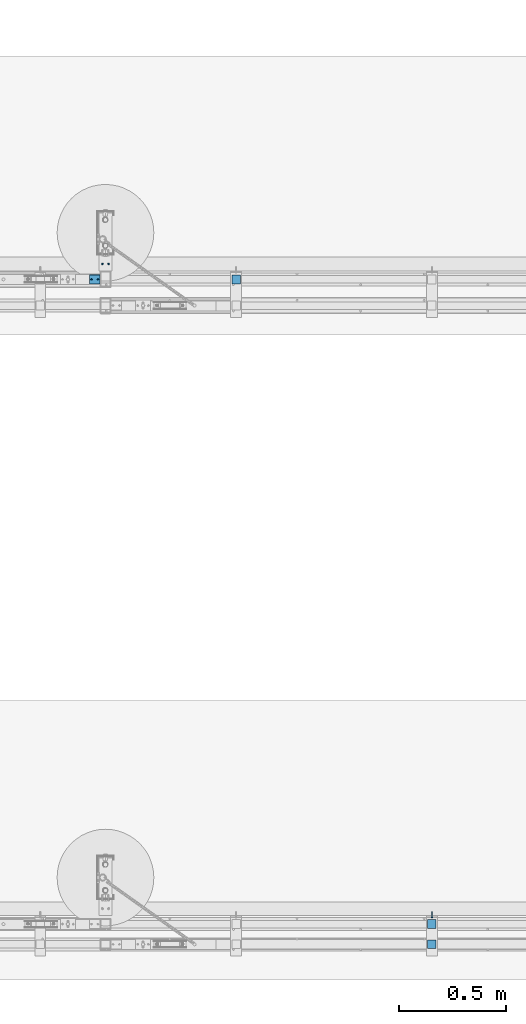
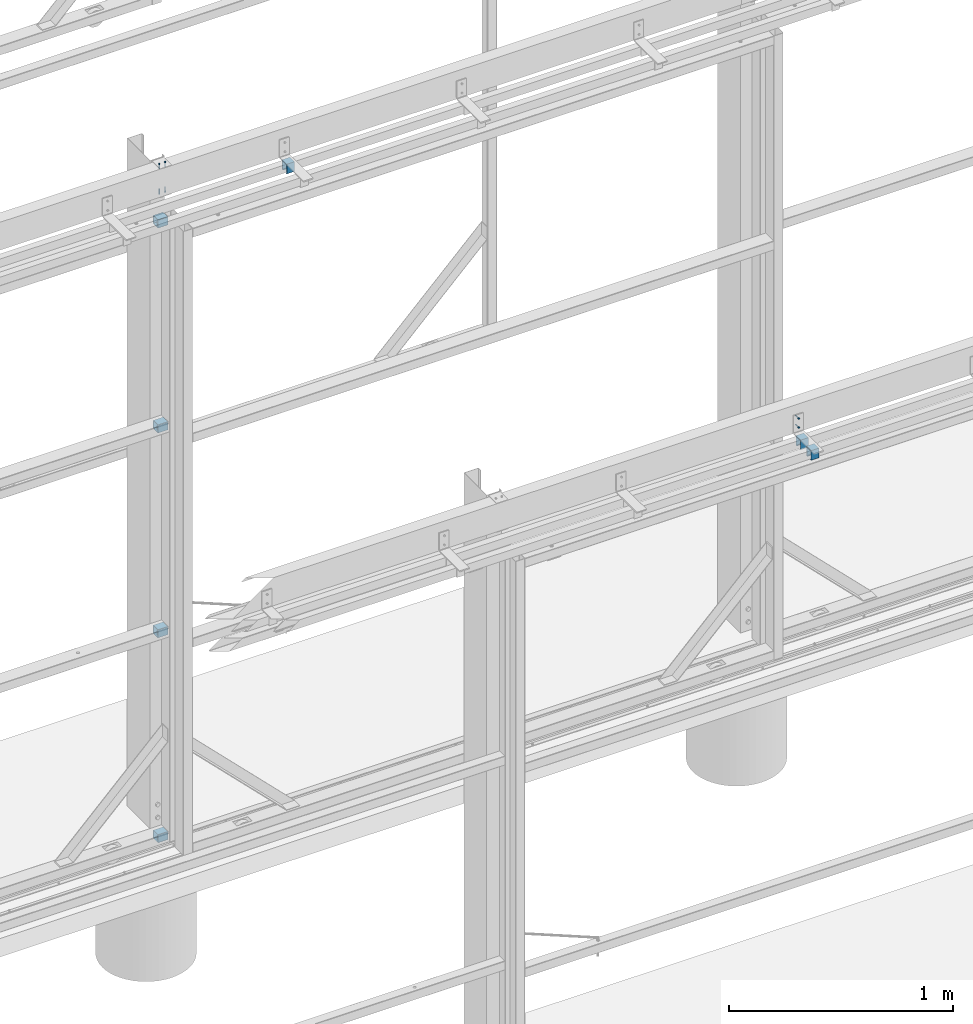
# One storey, part 42 of 91: 7 discrete accessories, 7 mechanical fasteners, 4 elements without a shape of their own.
"""IFC2X3 building model written with IfcOpenShell, lengths in millimetres."""

from ifc_helpers import new_model, si_unit, frame, origin_with_axes, origin_2d_with_axis, place, context, subcontext, project, spatial, polyline, hollow_rectangle, circle, c_section, outline, extrude, source, transform, mapped, material, type_object, element, aggregate, save


model = new_model("IFC2X3")

# Units and contexts
model_context = context("Model", 3, precision=1e-05, world=origin_with_axes())
body_context = subcontext(model_context, "Body", "Model", "MODEL_VIEW")
ifc_project = project(units=[si_unit("LENGTHUNIT", "METRE", prefix="MILLI"), si_unit("AREAUNIT", "SQUARE_METRE"), si_unit("VOLUMEUNIT", "CUBIC_METRE"), si_unit("MASSUNIT", "GRAM", prefix="KILO"), si_unit("TIMEUNIT", "SECOND"), si_unit("PLANEANGLEUNIT", "RADIAN"), si_unit("SOLIDANGLEUNIT", "STERADIAN"), si_unit("THERMODYNAMICTEMPERATUREUNIT", "DEGREE_CELSIUS"), si_unit("LUMINOUSINTENSITYUNIT", "LUMEN")], contexts=[model_context])

# Site, building, storey
site_placement = place(None, origin_with_axes())
site = spatial("IfcSite", under=ifc_project, at=site_placement, Name="Undefined", CompositionType="ELEMENT")
building_placement = place(site_placement, origin_with_axes())
building = spatial("IfcBuilding", under=site, at=building_placement, Name="Undefined", CompositionType="ELEMENT")
storey_placement = place(building_placement, origin_with_axes())
storey = spatial("IfcBuildingStorey", under=building, at=storey_placement, Name="Undefined", CompositionType="ELEMENT", Elevation=0.0)

# Assembly, mechanical fastener
assembly_1_placement = place(storey_placement, origin_with_axes())
assembly_1 = element("IfcElementAssembly", 1, at=assembly_1_placement, inside=storey, Name="DOOR BRACKET", AssemblyPlace="NOTDEFINED", PredefinedType="RIGID_FRAME")
ifc_material_1 = material(Name="TEK_11TPIM")
discrete_accessory_type_1 = type_object("IfcDiscreteAccessoryType", Name="Bolt assembly")
shared_shape_1 = source(origin_with_axes(), body_context, "Body", "SweptSolid", [
    extrude(circle(Radius=3.0, at=origin_2d_with_axis()), frame((0.0, -6.0, 0.0), z_axis=(0.0, 1.0, 0.0), x_axis=(1.0, 0.0, 0.0)), (0.0, 0.0, 1.0), 6.1),
    extrude(outline(polyline([(4.61880215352, 0.0), (2.30940107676, 4.00000000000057), (-2.30940107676, 4.00000000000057), (-4.61880215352, 0.0), (-2.30940107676, -4.00000000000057), (2.30940107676, -4.00000000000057), (4.61880215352, 0.0)])), frame((0.0, -11.1000000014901, 0.0), z_axis=(0.0, 1.0, 0.0), x_axis=(1.0, 0.0, 0.0)), (0.0, 0.0, 1.0), 5.0),
    extrude(circle(Radius=3.0, at=origin_2d_with_axis()), frame((0.0, -6.10000000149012, 0.0), z_axis=(0.0, 1.0, 0.0), x_axis=(1.0, 0.0, 0.0)), (0.0, 0.0, 1.0), 25.0),
    extrude(circle(Radius=3.0, at=origin_2d_with_axis()), frame((0.0, -6.10000000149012, 0.0), z_axis=(0.0, 1.0, 0.0), x_axis=(1.0, 0.0, 0.0)), (0.0, 0.0, 1.0), 0.1),
    extrude(circle(Radius=3.0, at=origin_2d_with_axis()), frame((0.0, 0.0, 0.0), z_axis=(0.0, 1.0, 0.0), x_axis=(1.0, 0.0, 0.0)), (0.0, 0.0, 1.0), 0.1),
    extrude(outline(polyline([(3.46410161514, 0.0), (1.73205080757, 3.00000000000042), (-1.73205080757, 3.00000000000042), (-3.46410161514, 0.0), (-1.73205080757, -3.00000000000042), (1.73205080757, -3.00000000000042), (3.46410161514, 0.0)])), frame((0.0, 0.1, 0.0), z_axis=(0.0, 1.0, 0.0), x_axis=(1.0, 0.0, 0.0)), (0.0, 0.0, 1.0), 0.1),
])
mechanical_fastener_1_placement = place(assembly_1_placement, frame((-112239.59, 84752.15, 3524.0), z_axis=(1.0, 0.0, 0.0), x_axis=(0.0, 0.0, -1.0)))
mechanical_fastener_1 = element("IfcMechanicalFastener", 2, at=mechanical_fastener_1_placement, type_object=discrete_accessory_type_1, material=ifc_material_1, Name="Bolt assembly", NominalDiameter=6.0, NominalLength=25.0, context=body_context, shape_type="MappedRepresentation", body=[
    mapped(shared_shape_1, transform((0.0, 0.0, 0.0))),
    mapped(shared_shape_1, transform((50.0, 0.0, 0.0))),
])

# Assembly, mechanical fasteners
assembly_2_placement = place(storey_placement, origin_with_axes())
assembly_2 = element("IfcElementAssembly", 3, at=assembly_2_placement, inside=storey, Name="SLIDING DOOR", AssemblyPlace="NOTDEFINED", PredefinedType="RIGID_FRAME")
shared_shape_2 = source(origin_with_axes(), body_context, "Body", "SweptSolid", [
    extrude(circle(Radius=3.0, at=origin_2d_with_axis()), frame((0.0, 0.103333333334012, 0.0), z_axis=(0.0, 1.0, 0.0), x_axis=(1.0, 0.0, 0.0)), (0.0, 0.0, 1.0), 2.0),
    extrude(circle(Radius=3.0, at=origin_2d_with_axis()), frame((0.0, 2.4, 0.0), z_axis=(0.0, 1.0, 0.0), x_axis=(1.0, 0.0, 0.0)), (0.0, 0.0, 1.0), 1.7),
    extrude(outline(polyline([(4.61880215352, 0.0), (2.30940107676, 4.00000000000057), (-2.30940107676, 4.00000000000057), (-4.61880215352, 0.0), (-2.30940107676, -4.00000000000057), (2.30940107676, -4.00000000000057), (4.61880215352, 0.0)])), frame((0.0, -4.99666666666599, 0.0), z_axis=(0.0, 1.0, 0.0), x_axis=(1.0, 0.0, 0.0)), (0.0, 0.0, 1.0), 5.0),
    extrude(circle(Radius=3.0, at=origin_2d_with_axis()), frame((0.0, 0.0033333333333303, 0.0), z_axis=(0.0, 1.0, 0.0), x_axis=(1.0, 0.0, 0.0)), (0.0, 0.0, 1.0), 25.0),
    extrude(circle(Radius=3.0, at=origin_2d_with_axis()), frame((0.0, 4.10000002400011, 0.0), z_axis=(0.0, 1.0, 0.0), x_axis=(1.0, 0.0, 0.0)), (0.0, 0.0, 1.0), 0.1),
    extrude(outline(polyline([(3.46410161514, 0.0), (1.73205080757, 3.00000000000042), (-1.73205080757, 3.00000000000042), (-3.46410161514, 0.0), (-1.73205080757, -3.00000000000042), (1.73205080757, -3.00000000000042), (3.46410161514, 0.0)])), frame((0.0, 4.20000002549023, 0.0), z_axis=(0.0, 1.0, 0.0), x_axis=(1.0, 0.0, 0.0)), (0.0, 0.0, 1.0), 0.1),
])
mechanical_fastener_2_placement = place(assembly_2_placement, frame((-113823.34, 87712.15, 2211.66), z_axis=(0.0, -1.0, 0.0), x_axis=(1.0, 0.0, 0.0)))
mechanical_fastener_2 = element("IfcMechanicalFastener", 4, at=mechanical_fastener_2_placement, type_object=discrete_accessory_type_1, material=ifc_material_1, Name="Bolt assembly", NominalDiameter=6.0, NominalLength=25.0, context=body_context, shape_type="MappedRepresentation", body=[
    mapped(shared_shape_2, transform((0.0, 0.0, 0.0))),
    mapped(shared_shape_2, transform((30.0, 0.0, 0.0))),
])
shared_shape_3 = source(origin_with_axes(), body_context, "Body", "SweptSolid", [
    extrude(circle(Radius=3.0, at=origin_2d_with_axis()), frame((0.0, 0.0966666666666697, 0.0), z_axis=(0.0, 1.0, 0.0), x_axis=(1.0, 0.0, 0.0)), (0.0, 0.0, 1.0), 2.0),
    extrude(circle(Radius=3.0, at=origin_2d_with_axis()), frame((0.0, 2.4, 0.0), z_axis=(0.0, 1.0, 0.0), x_axis=(1.0, 0.0, 0.0)), (0.0, 0.0, 1.0), 1.7),
    extrude(outline(polyline([(4.61880215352, 0.0), (2.30940107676, 4.00000000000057), (-2.30940107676, 4.00000000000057), (-4.61880215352, 0.0), (-2.30940107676, -4.00000000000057), (2.30940107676, -4.00000000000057), (4.61880215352, 0.0)])), frame((0.0, -5.00333333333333, 0.0), z_axis=(0.0, 1.0, 0.0), x_axis=(1.0, 0.0, 0.0)), (0.0, 0.0, 1.0), 5.0),
    extrude(circle(Radius=3.0, at=origin_2d_with_axis()), frame((0.0, -0.0033333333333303, 0.0), z_axis=(0.0, 1.0, 0.0), x_axis=(1.0, 0.0, 0.0)), (0.0, 0.0, 1.0), 25.0),
    extrude(circle(Radius=3.0, at=origin_2d_with_axis()), frame((0.0, 4.10000002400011, 0.0), z_axis=(0.0, 1.0, 0.0), x_axis=(1.0, 0.0, 0.0)), (0.0, 0.0, 1.0), 0.1),
    extrude(outline(polyline([(3.46410161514, 0.0), (1.73205080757, 3.00000000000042), (-1.73205080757, 3.00000000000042), (-3.46410161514, 0.0), (-1.73205080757, -3.00000000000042), (1.73205080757, -3.00000000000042), (3.46410161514, 0.0)])), frame((0.0, 4.20000002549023, 0.0), z_axis=(0.0, 1.0, 0.0), x_axis=(1.0, 0.0, 0.0)), (0.0, 0.0, 1.0), 0.1),
])
mechanical_fastener_3_placement = place(assembly_2_placement, frame((-113823.34, 87712.15, 1097.34), z_axis=(0.0, -1.0, 0.0), x_axis=(1.0, 0.0, 0.0)))
mechanical_fastener_3 = element("IfcMechanicalFastener", 5, at=mechanical_fastener_3_placement, type_object=discrete_accessory_type_1, material=ifc_material_1, Name="Bolt assembly", NominalDiameter=6.0, NominalLength=25.0, context=body_context, shape_type="MappedRepresentation", body=[
    mapped(shared_shape_3, transform((0.0, 0.0, 0.0))),
    mapped(shared_shape_3, transform((30.0, 0.0, 0.0))),
])
ifc_material_2 = material(Name="TEK_16TPIM")
shared_shape_4 = source(origin_with_axes(), body_context, "Body", "SweptSolid", [
    extrude(circle(Radius=3.5, at=origin_2d_with_axis()), frame((0.0, 0.1, 0.0), z_axis=(0.0, 1.0, 0.0), x_axis=(1.0, 0.0, 0.0)), (0.0, 0.0, 1.0), 2.0),
    extrude(circle(Radius=3.5, at=origin_2d_with_axis()), frame((0.0, 2.4, 0.0), z_axis=(0.0, 1.0, 0.0), x_axis=(1.0, 0.0, 0.0)), (0.0, 0.0, 1.0), 1.7),
    extrude(outline(polyline([(4.04145188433, 0.0), (2.020725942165, 3.5000000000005), (-2.020725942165, 3.5000000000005), (-4.04145188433, 0.0), (-2.020725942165, -3.5000000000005), (2.020725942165, -3.5000000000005), (4.04145188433, 0.0)])), frame((0.0, -5.0, 0.0), z_axis=(0.0, 1.0, 0.0), x_axis=(1.0, 0.0, 0.0)), (0.0, 0.0, 1.0), 5.0),
    extrude(circle(Radius=2.5, at=origin_2d_with_axis()), frame((0.0, 0.0, 0.0), z_axis=(0.0, 1.0, 0.0), x_axis=(1.0, 0.0, 0.0)), (0.0, 0.0, 1.0), 25.0),
    extrude(circle(Radius=2.5, at=origin_2d_with_axis()), frame((0.0, 4.10000002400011, 0.0), z_axis=(0.0, 1.0, 0.0), x_axis=(1.0, 0.0, 0.0)), (0.0, 0.0, 1.0), 0.1),
    extrude(outline(polyline([(2.88675134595, 0.0), (1.443375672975, 2.50000000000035), (-1.443375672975, 2.50000000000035), (-2.88675134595, 0.0), (-1.443375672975, -2.50000000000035), (1.443375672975, -2.50000000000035), (2.88675134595, 0.0)])), frame((0.0, 4.20000002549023, 0.0), z_axis=(0.0, 1.0, 0.0), x_axis=(1.0, 0.0, 0.0)), (0.0, 0.0, 1.0), 0.1),
])
mechanical_fastener_4_placement = place(assembly_2_placement, frame((-113823.34, 87712.15, -17.0), z_axis=(0.0, -1.0, 0.0), x_axis=(1.0, 0.0, 0.0)))
mechanical_fastener_4 = element("IfcMechanicalFastener", 6, at=mechanical_fastener_4_placement, type_object=discrete_accessory_type_1, material=ifc_material_2, Name="Bolt assembly", NominalDiameter=5.0, NominalLength=25.0, context=body_context, shape_type="MappedRepresentation", body=[
    mapped(shared_shape_4, transform((0.0, 0.0, 0.0))),
    mapped(shared_shape_4, transform((30.0, 0.0, 0.0))),
])
shared_shape_5 = source(origin_with_axes(), body_context, "Body", "SweptSolid", [
    extrude(circle(Radius=3.0, at=origin_2d_with_axis()), frame((0.0, 0.1, 0.0), z_axis=(0.0, 1.0, 0.0), x_axis=(1.0, 0.0, 0.0)), (0.0, 0.0, 1.0), 2.0),
    extrude(circle(Radius=3.0, at=origin_2d_with_axis()), frame((0.0, 2.4, 0.0), z_axis=(0.0, 1.0, 0.0), x_axis=(1.0, 0.0, 0.0)), (0.0, 0.0, 1.0), 1.7),
    extrude(outline(polyline([(4.61880215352, 0.0), (2.30940107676, 4.00000000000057), (-2.30940107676, 4.00000000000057), (-4.61880215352, 0.0), (-2.30940107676, -4.00000000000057), (2.30940107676, -4.00000000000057), (4.61880215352, 0.0)])), frame((0.0, -5.0, 0.0), z_axis=(0.0, 1.0, 0.0), x_axis=(1.0, 0.0, 0.0)), (0.0, 0.0, 1.0), 5.0),
    extrude(circle(Radius=3.0, at=origin_2d_with_axis()), frame((0.0, 0.0, 0.0), z_axis=(0.0, 1.0, 0.0), x_axis=(1.0, 0.0, 0.0)), (0.0, 0.0, 1.0), 25.0),
    extrude(circle(Radius=3.0, at=origin_2d_with_axis()), frame((0.0, 4.10000002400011, 0.0), z_axis=(0.0, 1.0, 0.0), x_axis=(1.0, 0.0, 0.0)), (0.0, 0.0, 1.0), 0.1),
    extrude(outline(polyline([(3.46410161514, 0.0), (1.73205080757, 3.00000000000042), (-1.73205080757, 3.00000000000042), (-3.46410161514, 0.0), (-1.73205080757, -3.00000000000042), (1.73205080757, -3.00000000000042), (3.46410161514, 0.0)])), frame((0.0, 4.20000002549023, 0.0), z_axis=(0.0, 1.0, 0.0), x_axis=(1.0, 0.0, 0.0)), (0.0, 0.0, 1.0), 0.1),
])
mechanical_fastener_5_placement = place(assembly_2_placement, frame((-113823.34, 87712.15, 3326.0), z_axis=(0.0, -1.0, 0.0), x_axis=(1.0, 0.0, 0.0)))
mechanical_fastener_5 = element("IfcMechanicalFastener", 7, at=mechanical_fastener_5_placement, type_object=discrete_accessory_type_1, material=ifc_material_1, Name="Bolt assembly", NominalDiameter=6.0, NominalLength=25.0, context=body_context, shape_type="MappedRepresentation", body=[
    mapped(shared_shape_5, transform((0.0, 0.0, 0.0))),
    mapped(shared_shape_5, transform((30.0, 0.0, 0.0))),
])

assembly_3_placement = place(storey_placement, origin_with_axes())
assembly_3 = element("IfcElementAssembly", 8, at=assembly_3_placement, inside=storey, Name="FASCIA BRACKET", AssemblyPlace="NOTDEFINED", PredefinedType="RIGID_FRAME")
shared_shape_6 = source(origin_with_axes(), body_context, "Body", "SweptSolid", [
    extrude(circle(Radius=3.5, at=origin_2d_with_axis()), frame((0.0, -2.59999694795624, 0.0), z_axis=(0.0, 1.0, 0.0), x_axis=(1.0, 0.0, 0.0)), (0.0, 0.0, 1.0), 1.7),
    extrude(outline(polyline([(4.04145188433, 0.0), (2.020725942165, 3.5000000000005), (-2.020725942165, 3.5000000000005), (-4.04145188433, 0.0), (-2.020725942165, -3.5000000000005), (2.020725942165, -3.5000000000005), (4.04145188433, 0.0)])), frame((0.0, -7.69999694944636, 0.0), z_axis=(0.0, 1.0, 0.0), x_axis=(1.0, 0.0, 0.0)), (0.0, 0.0, 1.0), 5.0),
    extrude(circle(Radius=2.5, at=origin_2d_with_axis()), frame((0.0, -2.69999694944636, 0.0), z_axis=(0.0, 1.0, 0.0), x_axis=(1.0, 0.0, 0.0)), (0.0, 0.0, 1.0), 25.0),
    extrude(circle(Radius=2.5, at=origin_2d_with_axis()), frame((0.0, -2.69999694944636, 0.0), z_axis=(0.0, 1.0, 0.0), x_axis=(1.0, 0.0, 0.0)), (0.0, 0.0, 1.0), 0.1),
    extrude(circle(Radius=2.5, at=origin_2d_with_axis()), frame((0.0, -1.0, 0.0), z_axis=(0.0, 1.0, 0.0), x_axis=(1.0, 0.0, 0.0)), (0.0, 0.0, 1.0), 0.1),
    extrude(outline(polyline([(2.88675134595, 0.0), (1.443375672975, 2.50000000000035), (-1.443375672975, 2.50000000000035), (-2.88675134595, 0.0), (-1.443375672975, -2.50000000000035), (1.443375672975, -2.50000000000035), (2.88675134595, 0.0)])), frame((0.0, -0.899996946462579, 0.0), z_axis=(0.0, 1.0, 0.0), x_axis=(1.0, 0.0, 0.0)), (0.0, 0.0, 1.0), 0.1),
])
mechanical_fastener_6_placement = place(assembly_3_placement, frame((-113758.339999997, 87784.1514572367, 3444.01721782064), z_axis=(-1.0, 0.0, 0.0), x_axis=(0.0, -1.0, 0.0)))
mechanical_fastener_6 = element("IfcMechanicalFastener", 9, at=mechanical_fastener_6_placement, type_object=discrete_accessory_type_1, material=ifc_material_2, Name="Bolt assembly", NominalDiameter=5.0, NominalLength=25.0, context=body_context, shape_type="MappedRepresentation", body=[
    mapped(shared_shape_6, transform((0.0, 0.0, -15.0))),
    mapped(shared_shape_6, transform((0.0, 0.0, 15.0))),
])
mechanical_fastener_7_placement = place(assembly_3_placement, frame((-113758.339999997, 87784.1514572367, 3596.01721782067), z_axis=(1.0, 0.0, 0.0), x_axis=(0.0, -1.0, 0.0)))
mechanical_fastener_7 = element("IfcMechanicalFastener", 10, at=mechanical_fastener_7_placement, type_object=discrete_accessory_type_1, material=ifc_material_2, Name="Bolt assembly", NominalDiameter=5.0, NominalLength=25.0, context=body_context, shape_type="MappedRepresentation", body=[
    mapped(shared_shape_6, transform((0.0, 0.0, -15.0))),
    mapped(shared_shape_6, transform((0.0, 0.0, 15.0))),
])
aggregate(assembly_3, [mechanical_fastener_6, mechanical_fastener_7])

# Assembly, discrete accessory
assembly_4_placement = place(storey_placement, origin_with_axes())
assembly_4 = element("IfcElementAssembly", 11, at=assembly_4_placement, inside=storey, Name="DOOR BRACKET", AssemblyPlace="NOTDEFINED", PredefinedType="RIGID_FRAME")
ifc_material_3 = material(Name="STEEL/250")
discrete_accessory_type_2 = type_object("IfcDiscreteAccessoryType", Name="SLIDING DOOR BRACKET")
discrete_accessory_1_placement = place(assembly_4_placement, frame((-113170.84, 87712.15, 3417.5), z_axis=(0.0, -1.0, 0.0), x_axis=(1.0, 0.0, 0.0)))
discrete_accessory_1 = element("IfcDiscreteAccessory", 12, at=discrete_accessory_1_placement, type_object=discrete_accessory_type_2, material=ifc_material_3, Name="SLIDING DOOR BRACKET", ObjectType="CC41-1.5-7-53", context=body_context, shape_type="SweptSolid", body=[
    extrude(c_section(Depth=41.0, Width=53.0, WallThickness=1.5, Girth=7.0, at=origin_2d_with_axis()), frame((40.0, 0.0, 0.0), z_axis=(-1.0, 0.0, 0.0), x_axis=(0.0, -1.0, 0.0)), (0.0, 0.0, 1.0), 40.0),
])
aggregate(assembly_4, [discrete_accessory_1])

# Discrete accessory
discrete_accessory_2_placement = place(assembly_1_placement, frame((-112259.59, 84618.15, 3417.5), z_axis=(0.0, -1.0, 0.0), x_axis=(1.0, 0.0, 0.0)))
discrete_accessory_2 = element("IfcDiscreteAccessory", 13, at=discrete_accessory_2_placement, type_object=discrete_accessory_type_2, material=ifc_material_3, Name="SLIDING DOOR BRACKET", ObjectType="CC41-1.5-7-53", context=body_context, shape_type="SweptSolid", body=[
    extrude(c_section(Depth=41.0, Width=53.0, WallThickness=1.5, Girth=7.0, at=origin_2d_with_axis()), frame((40.0, 0.0, 0.0), z_axis=(-1.0, 0.0, 0.0), x_axis=(0.0, -1.0, 0.0)), (0.0, 0.0, 1.0), 40.0),
])

discrete_accessory_3_placement = place(assembly_1_placement, frame((-112259.59, 84712.15, 3417.5), z_axis=(0.0, -1.0, 0.0), x_axis=(1.0, 0.0, 0.0)))
discrete_accessory_3 = element("IfcDiscreteAccessory", 14, at=discrete_accessory_3_placement, type_object=discrete_accessory_type_2, material=ifc_material_3, Name="SLIDING DOOR BRACKET", ObjectType="CC41-1.5-7-53", context=body_context, shape_type="SweptSolid", body=[
    extrude(c_section(Depth=41.0, Width=53.0, WallThickness=1.5, Girth=7.0, at=origin_2d_with_axis()), frame((40.0, 0.0, 0.0), z_axis=(-1.0, 0.0, 0.0), x_axis=(0.0, -1.0, 0.0)), (0.0, 0.0, 1.0), 40.0),
])

aggregate(assembly_1, [mechanical_fastener_1, discrete_accessory_2, discrete_accessory_3])

ifc_material_4 = material(Name="STEEL/300")
discrete_accessory_type_3 = type_object("IfcDiscreteAccessoryType", Name="SLIDING DOOR")
discrete_accessory_4_placement = place(assembly_2_placement, frame((-113783.34, 87712.15, 3351.0), z_axis=(0.0, -1.0, 0.0), x_axis=(-1.0, 0.0, 0.0)))
discrete_accessory_4 = element("IfcDiscreteAccessory", 15, at=discrete_accessory_4_placement, type_object=discrete_accessory_type_3, material=ifc_material_4, Name="SLIDING DOOR", ObjectType="SHS:45X45X1.6", context=body_context, shape_type="SweptSolid", body=[
    extrude(hollow_rectangle(XDim=45.0, YDim=45.0, WallThickness=1.600000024, InnerFilletRadius=1.600000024, OuterFilletRadius=3.200000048, at=origin_2d_with_axis()), frame((50.0, 0.0, 0.0), z_axis=(-1.0, 0.0, 0.0), x_axis=(0.0, -1.0, 0.0)), (0.0, 0.0, 1.0), 50.0),
])

discrete_accessory_5_placement = place(assembly_2_placement, frame((-113783.34, 87712.15, 2236.66), z_axis=(0.0, -1.0, 0.0), x_axis=(-1.0, 0.0, 0.0)))
discrete_accessory_5 = element("IfcDiscreteAccessory", 16, at=discrete_accessory_5_placement, type_object=discrete_accessory_type_3, material=ifc_material_4, Name="SLIDING DOOR", ObjectType="SHS:45X45X1.6", context=body_context, shape_type="SweptSolid", body=[
    extrude(hollow_rectangle(XDim=45.0, YDim=45.0, WallThickness=1.600000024, InnerFilletRadius=1.600000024, OuterFilletRadius=3.200000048, at=origin_2d_with_axis()), frame((50.0, 0.0, 0.0), z_axis=(-1.0, 0.0, 0.0), x_axis=(0.0, -1.0, 0.0)), (0.0, 0.0, 1.0), 50.0),
])

discrete_accessory_6_placement = place(assembly_2_placement, frame((-113783.34, 87712.15, 1122.34), z_axis=(0.0, -1.0, 0.0), x_axis=(-1.0, 0.0, 0.0)))
discrete_accessory_6 = element("IfcDiscreteAccessory", 17, at=discrete_accessory_6_placement, type_object=discrete_accessory_type_3, material=ifc_material_4, Name="SLIDING DOOR", ObjectType="SHS:45X45X1.6", context=body_context, shape_type="SweptSolid", body=[
    extrude(hollow_rectangle(XDim=45.0, YDim=45.0, WallThickness=1.600000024, InnerFilletRadius=1.600000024, OuterFilletRadius=3.200000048, at=origin_2d_with_axis()), frame((50.0, 0.0, 0.0), z_axis=(-1.0, 0.0, 0.0), x_axis=(0.0, -1.0, 0.0)), (0.0, 0.0, 1.0), 50.0),
])

discrete_accessory_7_placement = place(assembly_2_placement, frame((-113783.34, 87712.15, 8.0), z_axis=(0.0, -1.0, 0.0), x_axis=(-1.0, 0.0, 0.0)))
discrete_accessory_7 = element("IfcDiscreteAccessory", 18, at=discrete_accessory_7_placement, type_object=discrete_accessory_type_3, material=ifc_material_4, Name="SLIDING DOOR", ObjectType="SHS:45X45X1.6", context=body_context, shape_type="SweptSolid", body=[
    extrude(hollow_rectangle(XDim=45.0, YDim=45.0, WallThickness=1.600000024, InnerFilletRadius=1.600000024, OuterFilletRadius=3.200000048, at=origin_2d_with_axis()), frame((50.0, 0.0, 0.0), z_axis=(-1.0, 0.0, 0.0), x_axis=(0.0, -1.0, 0.0)), (0.0, 0.0, 1.0), 50.0),
])

aggregate(assembly_2, [mechanical_fastener_2, mechanical_fastener_3, mechanical_fastener_4, mechanical_fastener_5, discrete_accessory_4, discrete_accessory_5, discrete_accessory_6, discrete_accessory_7])

save(model, "model.ifc")
